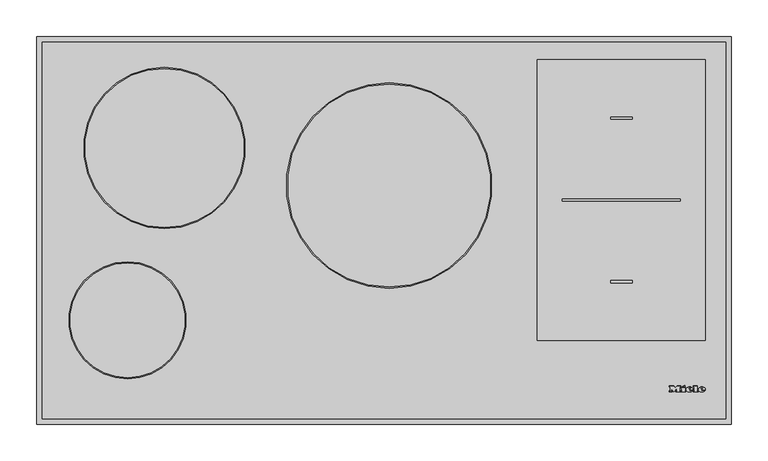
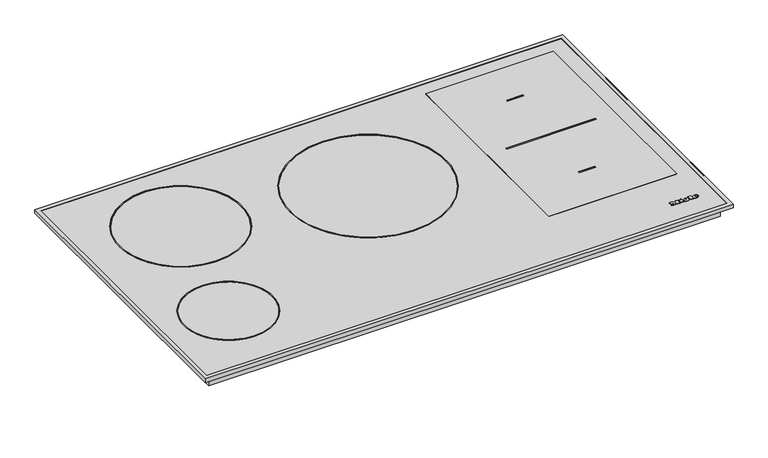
"""IFC4 building model written with IfcOpenShell, lengths in millimetres: proxy geometry, 11515550_GB_KM7699FR : 26769900_GB_11515550_KM7699FR."""

from ifc_helpers import new_model, si_unit, point, frame, frame_2d, origin, place, context, project, spatial, polyline, circle_curve, ellipse_curve, trimmed, segment, composite_curve, outline, extrude, faceted_brep, source, transform, mapped, element, save
from ifc_brep_helpers import plane_surface, cylinder_surface, revolved_surface, extruded_surface, advanced_brep


def specialty_equipment_6501de67(model_context):
    return source(origin(), model_context, "Body", "SolidModel", [
        advanced_brep(
        [(430.648, 45.8948833, 6.9922537), (430.648, 46.7028828, 6.9931551), (436.0, 46.7028828, 6.9931551), (426.688, 46.7028828, 6.9931551), (428.888, 43.9988845, 6.9901386), (435.864, 45.8948833, 6.9922537), (433.448, 45.8948833, 6.9922537), (431.544, 44.9988838, 6.9912542), (430.648, 47.7268821, 6.9942974), (430.648, 48.5988816, 6.9952701), (432.016, 48.5988816, 6.9952701), (432.016, 47.7268821, 6.9942974), (430.648, 45.8959988, 5.9922543), (431.544, 44.9999994, 5.9912548), (433.448, 45.8959988, 5.9922543), (435.864, 45.8959988, 5.9922543), (428.888, 44.0, 5.9901393), (426.688, 46.7039983, 5.9931557), (436.0, 46.7039983, 5.9931557), (430.648, 46.7039983, 5.9931557), (430.648, 47.7279977, 5.994298), (432.016, 47.7279977, 5.994298), (432.016, 48.5999971, 5.9952707), (430.648, 48.5999971, 5.9952707)],
        [
            (0, 1),
            (1, 2),
            (2, 3, ellipse_curve(frame((431.344, 46.7028828, 6.9931551), z_axis=(0.0, -0.0011155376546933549, 0.9999993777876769), x_axis=(-1.0, 0.0, 0.0)), 4.656, 3.848)),
            (3, 4, circle_curve(frame((429.7840436, 46.9748826, 6.9934585), z_axis=(0.0, -0.0011155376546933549, 0.9999993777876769), x_axis=(0.0, -0.9999993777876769, -0.0011155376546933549)), 3.1079688)),
            (4, 5, circle_curve(frame((431.2507936, 49.0868813, 6.9958145), z_axis=(0.0, -0.0011155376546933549, 0.9999993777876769), x_axis=(0.0, -0.9999993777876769, -0.0011155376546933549)), 5.6098607)),
            (5, 6),
            (6, 7, circle_curve(frame((431.9350588, 46.6388828, 6.9930837), z_axis=(0.0, 0.0011155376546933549, -0.9999993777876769), x_axis=(0.0, -0.9999993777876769, -0.0011155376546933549)), 1.6859795)),
            (7, 0, circle_curve(frame((431.544, 45.8948833, 6.9922537), z_axis=(0.0, 0.0011155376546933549, -0.9999993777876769), x_axis=(0.0, -0.9999993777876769, -0.0011155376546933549)), 0.896)),
            (8, 9),
            (9, 10, circle_curve(frame((431.332, 48.5988816, 6.9952701), z_axis=(0.0, 0.0011155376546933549, -0.9999993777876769), x_axis=(0.0, -0.9999993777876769, -0.0011155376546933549)), 0.684)),
            (10, 11),
            (11, 8),
            (12, 13, circle_curve(frame((431.544, 45.8959988, 5.9922543), z_axis=(0.0, -0.0011155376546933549, 0.9999993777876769), x_axis=(0.0, -0.9999993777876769, -0.0011155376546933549)), 0.896)),
            (13, 14, circle_curve(frame((431.9350588, 46.6399984, 5.9930843), z_axis=(0.0, -0.0011155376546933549, 0.9999993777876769), x_axis=(0.0, -0.9999993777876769, -0.0011155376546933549)), 1.6859795)),
            (14, 15),
            (15, 16, circle_curve(frame((431.2507936, 49.0879968, 5.9958151), z_axis=(0.0, 0.0011155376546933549, -0.9999993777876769), x_axis=(0.0, -0.9999993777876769, -0.0011155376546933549)), 5.6098607)),
            (16, 17, circle_curve(frame((429.7840436, 46.9759981, 5.9934591), z_axis=(0.0, 0.0011155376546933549, -0.9999993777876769), x_axis=(0.0, -0.9999993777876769, -0.0011155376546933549)), 3.1079688)),
            (17, 18, ellipse_curve(frame((431.344, 46.7039983, 5.9931557), z_axis=(0.0, 0.0011155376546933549, -0.9999993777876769), x_axis=(-1.0, 0.0, 0.0)), 4.656, 3.848)),
            (18, 19),
            (19, 12),
            (20, 21),
            (21, 22),
            (22, 23, circle_curve(frame((431.332, 48.5999971, 5.9952707), z_axis=(0.0, -0.0011155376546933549, 0.9999993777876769), x_axis=(0.0, -0.9999993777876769, -0.0011155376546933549)), 0.684)),
            (23, 20),
            (0, 12),
            (19, 1),
            (18, 2),
            (5, 15),
            (14, 6),
            (17, 3),
            (13, 7),
            (16, 4),
            (8, 20),
            (23, 9),
            (22, 10),
            (21, 11),
        ],
        [
            plane_surface(frame((430.648, 46.7028828, 6.9931551), z_axis=(0.0, -0.0011155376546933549, 0.9999993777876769), x_axis=(0.0, 0.9999993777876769, 0.0011155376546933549))),
            plane_surface(frame((430.648, 46.7039983, 5.9931557), z_axis=(0.0, 0.0011155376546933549, -0.9999993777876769), x_axis=(0.0, -0.9999993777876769, -0.0011155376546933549))),
            plane_surface(frame((430.648, 45.8948833, 6.9922537), z_axis=(1.0000000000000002, 0.0, 0.0), x_axis=(0.0, 0.001115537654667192, -0.999999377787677))),
            plane_surface(frame((430.648, 46.7028828, 6.9931551), z_axis=(0.0, -0.999999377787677, -0.001115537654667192), x_axis=(0.0, 0.001115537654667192, -0.999999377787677))),
            plane_surface(frame((435.864, 45.8948833, 6.9922537), z_axis=(0.0, 0.999999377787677, 0.001115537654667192), x_axis=(0.0, 0.001115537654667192, -0.999999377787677))),
            extruded_surface(trimmed(ellipse_curve(frame((431.344, 46.7051139, 4.9931563), z_axis=(0.0, -0.0011155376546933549, 0.9999993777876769), x_axis=(-1.0, 0.0, 0.0)), 4.656, 3.848), [point((436.0, 46.7051139, 4.9931563))], [point((426.688, 46.7051139, 4.9931563))], True, "CARTESIAN"), (0.0, -0.001115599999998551, 0.9999994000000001), 1.00000002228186),
            revolved_surface(polyline([(431.9350588, 44.954019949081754, 5.991203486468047), (431.9350588, 44.95290441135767, 6.99120292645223)]), (431.9350588, 46.6399984, 5.9930843), (0.0, 0.0011155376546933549, -0.9999993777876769)),
            revolved_surface(polyline([(431.544, 44.99999935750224, 5.9912547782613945), (431.544, 44.99888381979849, 6.991254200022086)]), (431.544, 45.8959988, 5.9922543), (0.0, 0.0011155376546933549, -0.9999993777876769)),
            cylinder_surface(frame((429.7840436, 46.9759981, 5.9934591), z_axis=(0.0, -0.0011155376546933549, 0.9999993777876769), x_axis=(0.0, -0.9999993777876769, -0.0011155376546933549)), 3.1079688),
            cylinder_surface(frame((431.2507936, 49.0879968, 5.9958151), z_axis=(0.0, -0.0011155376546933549, 0.9999993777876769), x_axis=(0.0, -0.9999993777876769, -0.0011155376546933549)), 5.6098607),
            plane_surface(frame((430.648, 47.7268821, 6.9942974), z_axis=(1.0000000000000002, 0.0, 0.0), x_axis=(0.0, 0.001115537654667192, -0.999999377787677))),
            revolved_surface(polyline([(431.332, 47.915997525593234, 5.99450767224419), (431.332, 47.91488198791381, 6.994507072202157)]), (431.332, 48.5999971, 5.9952707), (0.0, 0.0011155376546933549, -0.9999993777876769)),
            plane_surface(frame((432.016, 48.5988816, 6.9952701), z_axis=(-1.0000000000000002, 0.0, 0.0), x_axis=(0.0, 0.001115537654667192, -0.999999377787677))),
            plane_surface(frame((432.016, 47.7268821, 6.9942974), z_axis=(0.0, 0.999999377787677, 0.001115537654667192), x_axis=(0.0, 0.001115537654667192, -0.999999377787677))),
        ],
        [
            (0, [[1, 2, 3, 4, 5, 6, 7, 8], [9, 10, 11, 12]]),
            (1, [[13, 14, 15, 16, 17, 18, 19, 20], [21, 22, 23, 24]]),
            (2, [[-1, 25, -20, 26]]),
            (3, [[-2, -26, -19, 27]]),
            (4, [[-6, 28, -15, 29]]),
            (5, [[-3, -27, -18, 30]]),
            (6, [[-7, -29, -14, 31]]),
            (7, [[-8, -31, -13, -25]]),
            (8, [[-4, -30, -17, 32]]),
            (9, [[-5, -32, -16, -28]]),
            (10, [[-9, 33, -24, 34]]),
            (11, [[-10, -34, -23, 35]]),
            (12, [[-11, -35, -22, 36]]),
            (13, [[-12, -36, -21, -33]]),
        ],
    ),
        advanced_brep(
        [(413.952, 45.8948833, 6.9922537), (413.952, 46.7028828, 6.9931551), (419.304, 46.7028828, 6.9931551), (409.992, 46.7028828, 6.9931551), (412.192, 43.9988845, 6.9901386), (419.168, 45.8948833, 6.9922537), (416.752, 45.8948833, 6.9922537), (414.848, 44.9988838, 6.9912542), (413.952, 47.7268821, 6.9942974), (413.952, 48.5988816, 6.9952701), (415.32, 48.5988816, 6.9952701), (415.32, 47.7268821, 6.9942974), (413.952, 45.8959988, 5.9922543), (414.848, 44.9999994, 5.9912548), (416.752, 45.8959988, 5.9922543), (419.168, 45.8959988, 5.9922543), (412.192, 44.0, 5.9901393), (409.992, 46.7039983, 5.9931557), (419.304, 46.7039983, 5.9931557), (413.952, 46.7039983, 5.9931557), (413.952, 47.7279977, 5.994298), (415.32, 47.7279977, 5.994298), (415.32, 48.5999971, 5.9952707), (413.952, 48.5999971, 5.9952707)],
        [
            (0, 1),
            (1, 2),
            (2, 3, ellipse_curve(frame((414.648, 46.7028828, 6.9931551), z_axis=(0.0, -0.0011155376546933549, 0.9999993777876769), x_axis=(-1.0, 0.0, 0.0)), 4.656, 3.848)),
            (3, 4, circle_curve(frame((413.0880436, 46.9748826, 6.9934585), z_axis=(0.0, -0.0011155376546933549, 0.9999993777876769), x_axis=(0.0, -0.9999993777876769, -0.0011155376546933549)), 3.1079688)),
            (4, 5, circle_curve(frame((414.5547936, 49.0868813, 6.9958145), z_axis=(0.0, -0.0011155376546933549, 0.9999993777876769), x_axis=(0.0, -0.9999993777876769, -0.0011155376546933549)), 5.6098607)),
            (5, 6),
            (6, 7, circle_curve(frame((415.2390588, 46.6388828, 6.9930837), z_axis=(0.0, 0.0011155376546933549, -0.9999993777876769), x_axis=(0.0, -0.9999993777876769, -0.0011155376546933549)), 1.6859795)),
            (7, 0, circle_curve(frame((414.848, 45.8948833, 6.9922537), z_axis=(0.0, 0.0011155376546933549, -0.9999993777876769), x_axis=(0.0, -0.9999993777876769, -0.0011155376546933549)), 0.896)),
            (8, 9),
            (9, 10, circle_curve(frame((414.636, 48.5988816, 6.9952701), z_axis=(0.0, 0.0011155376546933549, -0.9999993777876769), x_axis=(0.0, -0.9999993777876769, -0.0011155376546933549)), 0.684)),
            (10, 11),
            (11, 8),
            (12, 13, circle_curve(frame((414.848, 45.8959988, 5.9922543), z_axis=(0.0, -0.0011155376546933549, 0.9999993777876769), x_axis=(0.0, -0.9999993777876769, -0.0011155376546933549)), 0.896)),
            (13, 14, circle_curve(frame((415.2390588, 46.6399984, 5.9930843), z_axis=(0.0, -0.0011155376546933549, 0.9999993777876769), x_axis=(0.0, -0.9999993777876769, -0.0011155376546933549)), 1.6859795)),
            (14, 15),
            (15, 16, circle_curve(frame((414.5547936, 49.0879968, 5.9958151), z_axis=(0.0, 0.0011155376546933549, -0.9999993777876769), x_axis=(0.0, -0.9999993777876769, -0.0011155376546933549)), 5.6098607)),
            (16, 17, circle_curve(frame((413.0880436, 46.9759981, 5.9934591), z_axis=(0.0, 0.0011155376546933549, -0.9999993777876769), x_axis=(0.0, -0.9999993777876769, -0.0011155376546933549)), 3.1079688)),
            (17, 18, ellipse_curve(frame((414.648, 46.7039983, 5.9931557), z_axis=(0.0, 0.0011155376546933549, -0.9999993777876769), x_axis=(-1.0, 0.0, 0.0)), 4.656, 3.848)),
            (18, 19),
            (19, 12),
            (20, 21),
            (21, 22),
            (22, 23, circle_curve(frame((414.636, 48.5999971, 5.9952707), z_axis=(0.0, -0.0011155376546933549, 0.9999993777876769), x_axis=(0.0, -0.9999993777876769, -0.0011155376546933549)), 0.684)),
            (23, 20),
            (0, 12),
            (19, 1),
            (18, 2),
            (5, 15),
            (14, 6),
            (17, 3),
            (13, 7),
            (16, 4),
            (8, 20),
            (23, 9),
            (22, 10),
            (21, 11),
        ],
        [
            plane_surface(frame((413.952, 46.7028828, 6.9931551), z_axis=(0.0, -0.0011155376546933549, 0.9999993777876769), x_axis=(0.0, 0.9999993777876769, 0.0011155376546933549))),
            plane_surface(frame((413.952, 46.7039983, 5.9931557), z_axis=(0.0, 0.0011155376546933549, -0.9999993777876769), x_axis=(0.0, -0.9999993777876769, -0.0011155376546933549))),
            plane_surface(frame((413.952, 45.8948833, 6.9922537), z_axis=(1.0000000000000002, 0.0, 0.0), x_axis=(0.0, 0.001115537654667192, -0.999999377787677))),
            plane_surface(frame((413.952, 46.7028828, 6.9931551), z_axis=(0.0, -0.999999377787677, -0.001115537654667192), x_axis=(0.0, 0.001115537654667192, -0.999999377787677))),
            plane_surface(frame((419.168, 45.8948833, 6.9922537), z_axis=(0.0, 0.999999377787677, 0.001115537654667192), x_axis=(0.0, 0.001115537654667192, -0.999999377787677))),
            extruded_surface(trimmed(ellipse_curve(frame((414.648, 46.7051139, 4.9931563), z_axis=(0.0, -0.0011155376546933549, 0.9999993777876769), x_axis=(-1.0, 0.0, 0.0)), 4.656, 3.848), [point((419.304, 46.7051139, 4.9931563))], [point((409.992, 46.7051139, 4.9931563))], True, "CARTESIAN"), (0.0, -0.001115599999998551, 0.9999994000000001), 1.00000002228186),
            revolved_surface(polyline([(415.2390588, 44.954019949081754, 5.991203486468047), (415.2390588, 44.95290441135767, 6.99120292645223)]), (415.2390588, 46.6399984, 5.9930843), (0.0, 0.0011155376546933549, -0.9999993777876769)),
            revolved_surface(polyline([(414.848, 44.99999935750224, 5.9912547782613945), (414.848, 44.99888381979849, 6.991254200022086)]), (414.848, 45.8959988, 5.9922543), (0.0, 0.0011155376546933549, -0.9999993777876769)),
            cylinder_surface(frame((413.0880436, 46.9759981, 5.9934591), z_axis=(0.0, -0.0011155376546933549, 0.9999993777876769), x_axis=(0.0, -0.9999993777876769, -0.0011155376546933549)), 3.1079688),
            cylinder_surface(frame((414.5547936, 49.0879968, 5.9958151), z_axis=(0.0, -0.0011155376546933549, 0.9999993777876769), x_axis=(0.0, -0.9999993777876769, -0.0011155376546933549)), 5.6098607),
            plane_surface(frame((413.952, 47.7268821, 6.9942974), z_axis=(1.0000000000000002, 0.0, 0.0), x_axis=(0.0, 0.001115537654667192, -0.999999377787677))),
            revolved_surface(polyline([(414.636, 47.915997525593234, 5.99450767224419), (414.636, 47.91488198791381, 6.994507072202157)]), (414.636, 48.5999971, 5.9952707), (0.0, 0.0011155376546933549, -0.9999993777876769)),
            plane_surface(frame((415.32, 48.5988816, 6.9952701), z_axis=(-1.0000000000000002, 0.0, 0.0), x_axis=(0.0, 0.001115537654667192, -0.999999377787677))),
            plane_surface(frame((415.32, 47.7268821, 6.9942974), z_axis=(0.0, 0.999999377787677, 0.001115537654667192), x_axis=(0.0, 0.001115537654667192, -0.999999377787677))),
        ],
        [
            (0, [[1, 2, 3, 4, 5, 6, 7, 8], [9, 10, 11, 12]]),
            (1, [[13, 14, 15, 16, 17, 18, 19, 20], [21, 22, 23, 24]]),
            (2, [[-1, 25, -20, 26]]),
            (3, [[-2, -26, -19, 27]]),
            (4, [[-6, 28, -15, 29]]),
            (5, [[-3, -27, -18, 30]]),
            (6, [[-7, -29, -14, 31]]),
            (7, [[-8, -31, -13, -25]]),
            (8, [[-4, -30, -17, 32]]),
            (9, [[-5, -32, -16, -28]]),
            (10, [[-9, 33, -24, 34]]),
            (11, [[-10, -34, -23, 35]]),
            (12, [[-11, -35, -22, 36]]),
            (13, [[-12, -36, -21, -33]]),
        ],
    ),
        extrude(outline(polyline([(0.0, 0.0), (-0.0109086, -2.9993294), (-1.4390415, -2.9920868), (-1.4315307, 0.0), (0.0, 0.0)])), frame((405.208, 51.5279953, 5.998537), z_axis=(0.0, -0.001115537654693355, 0.999999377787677), x_axis=(-0.4247202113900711, 0.9053240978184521, 0.0010099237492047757)), (0.0, 0.0, 1.0), 1.0),
        extrude(outline(polyline([(-0.4933908, 2.4141097), (-2.7800844, -2.4601583), (-7.0459741, -0.4588767), (-7.4401145, -1.299018), (-8.6568709, -0.728194), (-5.9760369, 4.9862153), (-4.7592805, 4.4153913), (-5.1636142, 3.5535222), (-2.1941493, 2.1604399), (-1.7898157, 3.022309), (-0.4933908, 2.4141097)])), frame((405.208, 51.5279953, 5.998537), z_axis=(0.0, -0.001115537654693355, 0.999999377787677), x_axis=(-0.4247202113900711, 0.9053240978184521, 0.0010099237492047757)), (0.0, 0.0, 1.0), 1.0),
        extrude(outline(polyline([(0.0, 0.0), (0.0, -1.304), (-5.504, -1.304), (-5.504, 5.3519999), (-6.488, 5.3519999), (-6.488, 6.696), (0.0, 6.696), (0.0, 5.3519999), (-0.96, 5.3519999), (-0.96, 0.0), (0.0, 0.0)])), frame((419.752, 50.6959958, 5.9976089), z_axis=(0.0, -0.0011155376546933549, 0.9999993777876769), x_axis=(-1.0, 0.0, 0.0)), (0.0, 0.0, 1.0), 1.0),
        extrude(outline(polyline([(0.0, 0.0), (0.0, -1.304), (-5.576, -1.304), (-7.92, 1.696), (-10.256, -1.304), (-15.128, -1.304), (-15.128, 0.0), (-14.112, 0.0), (-14.112, 5.3519999), (-15.128, 5.3519999), (-15.128, 6.696), (-8.744, 6.696), (-8.744, 5.3519999), (-9.728, 5.3519999), (-9.728, 1.8807777), (-6.136, 6.696), (-2.56, 1.9488752), (-2.56, 5.3519999), (-3.52, 5.3519999), (-3.52, 6.696), (0.0, 6.696), (0.0, 5.3519999), (-0.968, 5.3519999), (-0.968, 0.0), (0.0, 0.0)])), frame((387.288, 50.6959958, 5.9976089), z_axis=(0.0, -0.0011155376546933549, 0.9999993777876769), x_axis=(-1.0, 0.0, 0.0)), (0.0, 0.0, 1.0), 1.0),
        extrude(outline(polyline([(290.3772603, 428.0), (283.0, 428.0), (283.0, 429.2557039), (289.1215564, 429.2557039), (289.1215564, 432.5519266), (283.470889, 432.5519266), (283.470889, 433.8076304), (289.1215564, 433.8076304), (289.1215564, 436.7899271), (283.156963, 436.7899271), (283.156963, 438.045631), (290.3772603, 438.045631), (290.3772603, 428.0)])), frame((0.0, 0.0, -76.0), z_axis=(0.0, 0.0, 1.0), x_axis=(1.0, 0.0, 0.0)), (0.0, 0.0, 1.0), 1.0),
        extrude(outline(polyline([(281.1164442, 428.0), (274.8379248, 428.0), (274.8379248, 429.2557039), (279.8607403, 429.2557039), (279.8607403, 438.045631), (281.1164442, 438.045631), (281.1164442, 428.0)])), frame((0.0, 0.0, -76.0), z_axis=(0.0, 0.0, 1.0), x_axis=(1.0, 0.0, 0.0)), (0.0, 0.0, 1.0), 1.0),
        extrude(outline(polyline([(470.0, 524.0), (470.0, 1.0), (-470.0, 1.0), (-470.0, 524.0), (470.0, 524.0)])), frame((0.0, 0.0, 2.0), z_axis=(0.0, 0.0, 1.0), x_axis=(1.0, 0.0, 0.0)), (0.0, 0.0, 1.0), 4.0),
        extrude(outline(polyline([(456.5, 511.5), (456.5, 14.5), (-456.5, 14.5), (-456.5, 511.5), (456.5, 511.5)])), frame((0.0, 0.0, -20.0), z_axis=(0.0, 0.0, 1.0), x_axis=(1.0, 0.0, 0.0)), (0.0, 0.0, 1.0), 22.0),
        faceted_brep([(464.0, 519.0, 7.0), (464.0, 519.0, 6.0), (464.0, 7.0, 6.0), (464.0, 7.0, 7.0), (471.0, 526.0, 0.0), (471.0, 526.0, 7.0), (471.0, 0.0, 7.0), (471.0, 0.0, 0.0), (470.0, 525.0, 6.0), (470.0, 525.0, 0.0), (470.0, 1.0, 0.0), (470.0, 1.0, 6.0), (-464.0, 7.0, 6.0), (-464.0, 7.0, 7.0), (-471.0, 0.0, 7.0), (-471.0, 0.0, 0.0), (-470.0, 1.0, 0.0), (-470.0, 1.0, 6.0), (-464.0, 519.0, 6.0), (-464.0, 519.0, 7.0), (-471.0, 526.0, 7.0), (-471.0, 526.0, 0.0), (-470.0, 525.0, 0.0), (-470.0, 525.0, 6.0)], [[[0, 1, 2, 3]], [[4, 5, 6, 7]], [[8, 9, 10, 11]], [[3, 2, 12, 13]], [[7, 6, 14, 15]], [[11, 10, 16, 17]], [[13, 12, 18, 19]], [[15, 14, 20, 21]], [[17, 16, 22, 23]], [[19, 18, 1, 0]], [[5, 20, 14, 6], [3, 13, 19, 0]], [[21, 20, 5, 4]], [[7, 15, 21, 4], [9, 22, 16, 10]], [[23, 22, 9, 8]], [[11, 17, 23, 8], [1, 18, 12, 2]]]),
        extrude(outline(composite_curve([segment(trimmed(circle_curve(frame_2d((7.0, 324.0)), 139.5), [point((7.0, 463.5))], [point((7.0, 184.5))], False, "CARTESIAN"), True, "CONTINUOUS"), segment(trimmed(circle_curve(frame_2d((7.0, 324.0)), 139.5), [point((7.0, 184.5))], [point((7.0, 463.5))], False, "CARTESIAN"), True, "CONTINUOUS")], self_intersect=False), holes=[composite_curve([segment(trimmed(circle_curve(frame_2d((7.0, 324.0)), 138.0), [point((7.0, 462.0))], [point((7.0, 186.0))], True, "CARTESIAN"), True, "CONTINUOUS"), segment(trimmed(circle_curve(frame_2d((7.0, 324.0)), 138.0), [point((7.0, 186.0))], [point((7.0, 462.0))], True, "CARTESIAN"), True, "CONTINUOUS")], self_intersect=False)]), frame((0.0, 0.0, 6.0), z_axis=(0.0, 0.0, 1.0), x_axis=(1.0, 0.0, 0.0)), (0.0, 0.0, 1.0), 1.0),
        extrude(outline(composite_curve([segment(trimmed(circle_curve(frame_2d((-298.0, 375.0)), 109.5), [point((-298.0, 484.5))], [point((-298.0, 265.5))], False, "CARTESIAN"), True, "CONTINUOUS"), segment(trimmed(circle_curve(frame_2d((-298.0, 375.0)), 109.5), [point((-298.0, 265.5))], [point((-298.0, 484.5))], False, "CARTESIAN"), True, "CONTINUOUS")], self_intersect=False), holes=[composite_curve([segment(trimmed(circle_curve(frame_2d((-298.0, 375.0)), 108.0), [point((-298.0, 483.0))], [point((-298.0, 267.0))], True, "CARTESIAN"), True, "CONTINUOUS"), segment(trimmed(circle_curve(frame_2d((-298.0, 375.0)), 108.0), [point((-298.0, 267.0))], [point((-298.0, 483.0))], True, "CARTESIAN"), True, "CONTINUOUS")], self_intersect=False)]), frame((0.0, 0.0, 6.0), z_axis=(0.0, 0.0, 1.0), x_axis=(1.0, 0.0, 0.0)), (0.0, 0.0, 1.0), 1.0),
        extrude(outline(composite_curve([segment(trimmed(circle_curve(frame_2d((-348.0, 141.0)), 79.5), [point((-348.0, 220.5))], [point((-348.0, 61.5))], False, "CARTESIAN"), True, "CONTINUOUS"), segment(trimmed(circle_curve(frame_2d((-348.0, 141.0)), 79.5), [point((-348.0, 61.5))], [point((-348.0, 220.5))], False, "CARTESIAN"), True, "CONTINUOUS")], self_intersect=False), holes=[composite_curve([segment(trimmed(circle_curve(frame_2d((-348.0, 141.0)), 78.0), [point((-348.0, 219.0))], [point((-348.0, 63.0))], True, "CARTESIAN"), True, "CONTINUOUS"), segment(trimmed(circle_curve(frame_2d((-348.0, 141.0)), 78.0), [point((-348.0, 63.0))], [point((-348.0, 219.0))], True, "CARTESIAN"), True, "CONTINUOUS")], self_intersect=False)]), frame((0.0, 0.0, 6.0), z_axis=(0.0, 0.0, 1.0), x_axis=(1.0, 0.0, 0.0)), (0.0, 0.0, 1.0), 1.0),
        extrude(outline(polyline([(436.0, 495.0), (436.0, 114.0), (208.0, 114.0), (208.0, 495.0), (436.0, 495.0)]), holes=[polyline([(336.5, 417.0), (307.5, 417.0), (307.5, 414.0), (336.5, 414.0), (336.5, 417.0)]), polyline([(402.0, 303.0), (402.0, 306.0), (242.0, 306.0), (242.0, 303.0), (402.0, 303.0)]), polyline([(336.5, 195.0), (307.5, 195.0), (307.5, 192.0), (336.5, 192.0), (336.5, 195.0)])]), frame((0.0, 0.0, 6.0), z_axis=(0.0, 0.0, 1.0), x_axis=(1.0, 0.0, 0.0)), (0.0, 0.0, 1.0), 1.0),
        extrude(outline(composite_curve([segment(trimmed(circle_curve(frame_2d((283.0, 433.0)), 7.5), [point((283.0, 440.5))], [point((283.0, 425.5))], False, "CARTESIAN"), True, "CONTINUOUS"), segment(trimmed(circle_curve(frame_2d((283.0, 433.0)), 7.5), [point((283.0, 425.5))], [point((283.0, 440.5))], False, "CARTESIAN"), True, "CONTINUOUS")], self_intersect=False)), frame((0.0, 0.0, -75.0), z_axis=(0.0, 0.0, 1.0), x_axis=(1.0, 0.0, 0.0)), (0.0, 0.0, 1.0), 30.0),
        extrude(outline(polyline([(361.0, 467.0), (361.0, 96.0), (-361.0, 96.0), (-361.0, 467.0), (361.0, 467.0)])), frame((0.0, 0.0, -45.0), z_axis=(0.0, 0.0, 1.0), x_axis=(1.0, 0.0, 0.0)), (0.0, 0.0, 1.0), 25.0),
    ])


if __name__ == "__main__":
    model = new_model("IFC4")
    model_context = context("Model", 3, world=origin())
    ifc_project = project(units=[si_unit("LENGTHUNIT", "METRE", prefix="MILLI")], contexts=[model_context])
    site = spatial("IfcSite", under=ifc_project)
    building = spatial("IfcBuilding", under=site)
    placement = place(None, origin())
    specialty_equipment_shape = specialty_equipment_6501de67(model_context)
    element("IfcBuildingElementProxy", 1, Name="11515550_GB_KM7699FR : 26769900_GB_11515550_KM7699FR", ObjectType="11515550_GB_KM7699FR : 26769900_GB_11515550_KM7699FR", at=placement, inside=building, context=model_context, shape_type="MappedRepresentation", body=[
        mapped(specialty_equipment_shape, transform((0.0, 0.0, 0.0), x_axis=(1.0, 0.0, 0.0), y_axis=(0.0, 1.0, 0.0), z_axis=(0.0, 0.0, 1.0))),
    ])
    save(model, "model.ifc")
